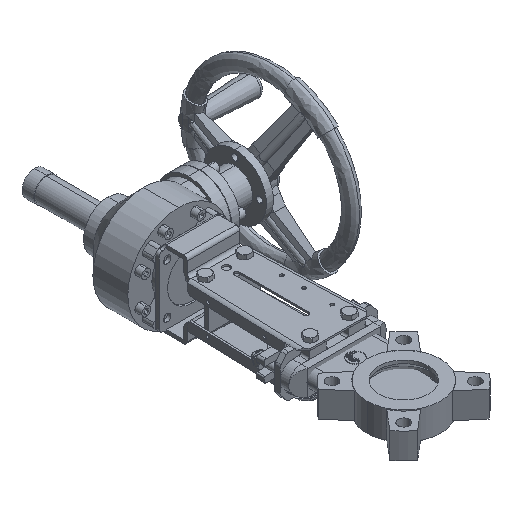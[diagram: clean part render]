
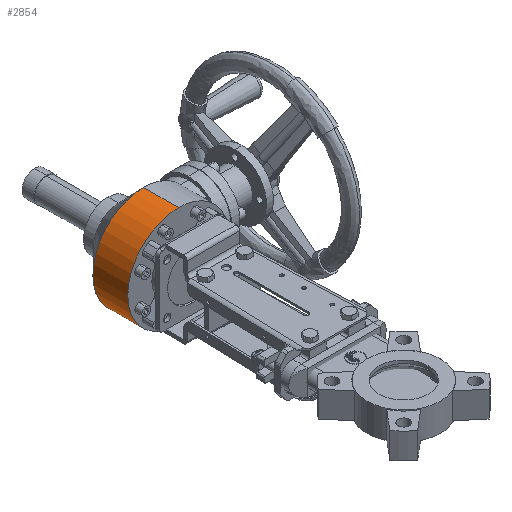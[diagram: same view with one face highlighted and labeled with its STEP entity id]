
A CAD part, isometric view. The second image highlights one B-rep face of the part: STEP entity #2854.
In plain terms, the highlighted cylindrical face has radius 72.5 mm (diameter 145 mm), a partial arc.
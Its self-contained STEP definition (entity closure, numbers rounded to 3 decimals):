
#2854 = ADVANCED_FACE ( 'NONE', ( #35051 ), #35048, .T. ) ;
#2855 = EDGE_LOOP ( 'NONE', ( #2856, #2914, #2915, #2916 ) ) ;
#2856 = ORIENTED_EDGE ( 'NONE', *, *, #29992, .F. ) ;
#2914 = ORIENTED_EDGE ( 'NONE', *, *, #39095, .T. ) ;
#2915 = ORIENTED_EDGE ( 'NONE', *, *, #30069, .T. ) ;
#2916 = ORIENTED_EDGE ( 'NONE', *, *, #30143, .F. ) ;
#19917 = DIRECTION ( 'NONE',  ( 0., 1., 0. ) ) ;
#19918 = VECTOR ( 'NONE', #19917, 1000. ) ;
#19919 = CARTESIAN_POINT ( 'NONE',  ( 0., 434.43, -72.5 ) ) ;
#19920 = LINE ( 'NONE', #19919, #19918 ) ;
#19965 = CARTESIAN_POINT ( 'NONE',  ( 0., 322.5, 72.5 ) ) ;
#20058 = CARTESIAN_POINT ( 'NONE',  ( 0., 372.5, 72.5 ) ) ;
#20067 = CARTESIAN_POINT ( 'NONE',  ( 0., 372.5, -72.5 ) ) ;
#20069 = DIRECTION ( 'NONE',  ( 0., 1., 0. ) ) ;
#20070 = VECTOR ( 'NONE', #20069, 1000. ) ;
#20071 = CARTESIAN_POINT ( 'NONE',  ( 0., 434.43, 72.5 ) ) ;
#20072 = LINE ( 'NONE', #20071, #20070 ) ;
#20238 = CARTESIAN_POINT ( 'NONE',  ( 0., 322.5, -72.5 ) ) ;
#20392 = DIRECTION ( 'NONE',  ( 0., 0., 1. ) ) ;
#20393 = DIRECTION ( 'NONE',  ( 0., 1., 0. ) ) ;
#20394 = CARTESIAN_POINT ( 'NONE',  ( 0., 372.5, 0. ) ) ;
#20395 = AXIS2_PLACEMENT_3D ( 'NONE', #20394, #20393, #20392 ) ;
#20396 = CIRCLE ( 'NONE', #20395, 72.5 ) ;
#24546 = DIRECTION ( 'NONE',  ( 0., 0., 1. ) ) ;
#24547 = DIRECTION ( 'NONE',  ( 0., 1., 0. ) ) ;
#24548 = CARTESIAN_POINT ( 'NONE',  ( 0., 322.5, 0. ) ) ;
#24549 = AXIS2_PLACEMENT_3D ( 'NONE', #24548, #24547, #24546 ) ;
#24550 = CIRCLE ( 'NONE', #24549, 72.5 ) ;
#29992 = EDGE_CURVE ( 'NONE', #30124, #30074, #19920, .T. ) ;
#30021 = VERTEX_POINT ( 'NONE', #19965 ) ;
#30069 = EDGE_CURVE ( 'NONE', #30021, #30081, #20072, .T. ) ;
#30074 = VERTEX_POINT ( 'NONE', #20067 ) ;
#30081 = VERTEX_POINT ( 'NONE', #20058 ) ;
#30124 = VERTEX_POINT ( 'NONE', #20238 ) ;
#30143 = EDGE_CURVE ( 'NONE', #30074, #30081, #20396, .T. ) ;
#35039 = DIRECTION ( 'NONE',  ( 0., 0., 1. ) ) ;
#35040 = DIRECTION ( 'NONE',  ( 0., 1., 0. ) ) ;
#35048 = CYLINDRICAL_SURFACE ( 'NONE', #35050, 72.5 ) ;
#35049 = CARTESIAN_POINT ( 'NONE',  ( 0., 434.43, 0. ) ) ;
#35050 = AXIS2_PLACEMENT_3D ( 'NONE', #35049, #35040, #35039 ) ;
#35051 = FACE_OUTER_BOUND ( 'NONE', #2855, .T. ) ;
#39095 = EDGE_CURVE ( 'NONE', #30124, #30021, #24550, .T. ) ;
